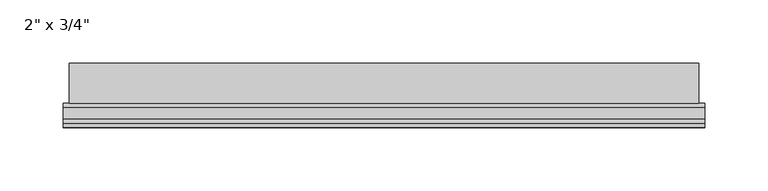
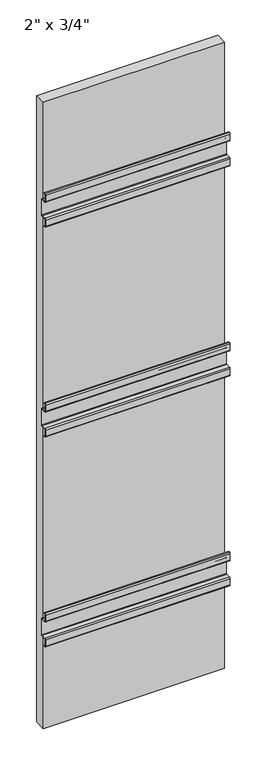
"""IFC4 building model written with IfcOpenShell, lengths in millimetres: plate geometry."""

from ifc_helpers import new_model, si_unit, point, frame, frame_2d, origin, place, context, project, spatial, polyline, circle_curve, trimmed, segment, composite_curve, outline, extrude, source, transform, mapped, element, save


def plate_c696ad90(model_context):
    return source(origin(), model_context, "Body", "SweptSolid", [
        extrude(outline(composite_curve([segment(trimmed(circle_curve(frame_2d((3.175, 1476.375)), 3.175), [point((3.175, 1473.2))], [point((0.0, 1476.375))], False, "CARTESIAN"), True, "CONTINUOUS"), segment(polyline([(0.0, 1476.375), (0.0, 1494.6376)]), True, "CONTINUOUS"), segment(trimmed(circle_curve(frame_2d((3.175, 1494.6376)), 3.175), [point((0.0, 1494.6376))], [point((3.175, 1497.8126))], False, "CARTESIAN"), True, "CONTINUOUS"), segment(polyline([(3.175, 1497.8126), (15.875, 1497.8126)]), True, "CONTINUOUS"), segment(trimmed(circle_curve(frame_2d((15.875, 1499.4001)), 1.5875), [point((15.875, 1497.8126))], [point((17.4625, 1499.4001))], True, "CARTESIAN"), True, "CONTINUOUS"), segment(polyline([(17.4625, 1499.4001), (17.4625, 1543.8501)]), True, "CONTINUOUS"), segment(trimmed(circle_curve(frame_2d((15.875, 1543.8501)), 1.5875), [point((17.4625, 1543.8501))], [point((15.875, 1545.4376))], True, "CARTESIAN"), True, "CONTINUOUS"), segment(polyline([(15.875, 1545.4376), (3.175, 1545.4376)]), True, "CONTINUOUS"), segment(trimmed(circle_curve(frame_2d((3.175, 1548.6126)), 3.175), [point((3.175, 1545.4376))], [point((0.0, 1548.6126))], False, "CARTESIAN"), True, "CONTINUOUS"), segment(polyline([(0.0, 1548.6126), (0.0, 1566.8752)]), True, "CONTINUOUS"), segment(trimmed(circle_curve(frame_2d((3.175, 1566.8752)), 3.175), [point((0.0, 1566.8752))], [point((3.175, 1570.0502))], False, "CARTESIAN"), True, "CONTINUOUS"), segment(polyline([(3.175, 1570.0502), (6.35, 1570.0502), (6.35, 1568.4627), (3.175, 1568.4627)]), True, "CONTINUOUS"), segment(trimmed(circle_curve(frame_2d((3.175, 1566.8752)), 1.5875), [point((3.175, 1568.4627))], [point((1.5875, 1566.8752))], True, "CARTESIAN"), True, "CONTINUOUS"), segment(polyline([(1.5875, 1566.8752), (1.5875, 1548.6126)]), True, "CONTINUOUS"), segment(trimmed(circle_curve(frame_2d((3.175, 1548.6126)), 1.5875), [point((1.5875, 1548.6126))], [point((3.175, 1547.0251))], True, "CARTESIAN"), True, "CONTINUOUS"), segment(polyline([(3.175, 1547.0251), (15.875, 1547.0251)]), True, "CONTINUOUS"), segment(trimmed(circle_curve(frame_2d((15.875, 1543.8501)), 3.175), [point((15.875, 1547.0251))], [point((19.05, 1543.8501))], False, "CARTESIAN"), True, "CONTINUOUS"), segment(polyline([(19.05, 1543.8501), (19.05, 1499.4001)]), True, "CONTINUOUS"), segment(trimmed(circle_curve(frame_2d((15.875, 1499.4001)), 3.175), [point((19.05, 1499.4001))], [point((15.875, 1496.2251))], False, "CARTESIAN"), True, "CONTINUOUS"), segment(polyline([(15.875, 1496.2251), (3.175, 1496.2251)]), True, "CONTINUOUS"), segment(trimmed(circle_curve(frame_2d((3.175, 1494.6376)), 1.5875), [point((3.175, 1496.2251))], [point((1.5875, 1494.6376))], True, "CARTESIAN"), True, "CONTINUOUS"), segment(polyline([(1.5875, 1494.6376), (1.5875, 1476.375)]), True, "CONTINUOUS"), segment(trimmed(circle_curve(frame_2d((3.175, 1476.375)), 1.5875), [point((1.5875, 1476.375))], [point((3.175, 1474.7875))], True, "CARTESIAN"), True, "CONTINUOUS"), segment(polyline([(3.175, 1474.7875), (6.35, 1474.7875), (6.35, 1473.2), (3.175, 1473.2)]), True, "CONTINUOUS")], self_intersect=False)), frame((-253.9999998, 0.0, 0.0), z_axis=(1.0, 0.0, 0.0), x_axis=(0.0, 1.0, 0.0)), (0.0, 0.0, 1.0), 507.9999997),
        extrude(outline(composite_curve([segment(trimmed(circle_curve(frame_2d((3.175, 866.775)), 3.175), [point((3.175, 863.6))], [point((0.0, 866.775))], False, "CARTESIAN"), True, "CONTINUOUS"), segment(polyline([(0.0, 866.775), (0.0, 885.0376)]), True, "CONTINUOUS"), segment(trimmed(circle_curve(frame_2d((3.175, 885.0376)), 3.175), [point((0.0, 885.0376))], [point((3.175, 888.2126))], False, "CARTESIAN"), True, "CONTINUOUS"), segment(polyline([(3.175, 888.2126), (15.875, 888.2126)]), True, "CONTINUOUS"), segment(trimmed(circle_curve(frame_2d((15.875, 889.8001)), 1.5875), [point((15.875, 888.2126))], [point((17.4625, 889.8001))], True, "CARTESIAN"), True, "CONTINUOUS"), segment(polyline([(17.4625, 889.8001), (17.4625, 934.2501)]), True, "CONTINUOUS"), segment(trimmed(circle_curve(frame_2d((15.875, 934.2501)), 1.5875), [point((17.4625, 934.2501))], [point((15.875, 935.8376))], True, "CARTESIAN"), True, "CONTINUOUS"), segment(polyline([(15.875, 935.8376), (3.175, 935.8376)]), True, "CONTINUOUS"), segment(trimmed(circle_curve(frame_2d((3.175, 939.0126)), 3.175), [point((3.175, 935.8376))], [point((0.0, 939.0126))], False, "CARTESIAN"), True, "CONTINUOUS"), segment(polyline([(0.0, 939.0126), (0.0, 957.2752)]), True, "CONTINUOUS"), segment(trimmed(circle_curve(frame_2d((3.175, 957.2752)), 3.175), [point((0.0, 957.2752))], [point((3.175, 960.4502))], False, "CARTESIAN"), True, "CONTINUOUS"), segment(polyline([(3.175, 960.4502), (6.35, 960.4502), (6.35, 958.8627), (3.175, 958.8627)]), True, "CONTINUOUS"), segment(trimmed(circle_curve(frame_2d((3.175, 957.2752)), 1.5875), [point((3.175, 958.8627))], [point((1.5875, 957.2752))], True, "CARTESIAN"), True, "CONTINUOUS"), segment(polyline([(1.5875, 957.2752), (1.5875, 939.0126)]), True, "CONTINUOUS"), segment(trimmed(circle_curve(frame_2d((3.175, 939.0126)), 1.5875), [point((1.5875, 939.0126))], [point((3.175, 937.4251))], True, "CARTESIAN"), True, "CONTINUOUS"), segment(polyline([(3.175, 937.4251), (15.875, 937.4251)]), True, "CONTINUOUS"), segment(trimmed(circle_curve(frame_2d((15.875, 934.2501)), 3.175), [point((15.875, 937.4251))], [point((19.05, 934.2501))], False, "CARTESIAN"), True, "CONTINUOUS"), segment(polyline([(19.05, 934.2501), (19.05, 889.8001)]), True, "CONTINUOUS"), segment(trimmed(circle_curve(frame_2d((15.875, 889.8001)), 3.175), [point((19.05, 889.8001))], [point((15.875, 886.6251))], False, "CARTESIAN"), True, "CONTINUOUS"), segment(polyline([(15.875, 886.6251), (3.175, 886.6251)]), True, "CONTINUOUS"), segment(trimmed(circle_curve(frame_2d((3.175, 885.0376)), 1.5875), [point((3.175, 886.6251))], [point((1.5875, 885.0376))], True, "CARTESIAN"), True, "CONTINUOUS"), segment(polyline([(1.5875, 885.0376), (1.5875, 866.775)]), True, "CONTINUOUS"), segment(trimmed(circle_curve(frame_2d((3.175, 866.775)), 1.5875), [point((1.5875, 866.775))], [point((3.175, 865.1875))], True, "CARTESIAN"), True, "CONTINUOUS"), segment(polyline([(3.175, 865.1875), (6.35, 865.1875), (6.35, 863.6), (3.175, 863.6)]), True, "CONTINUOUS")], self_intersect=False)), frame((-253.9999998, 0.0, 0.0), z_axis=(1.0, 0.0, 0.0), x_axis=(0.0, 1.0, 0.0)), (0.0, 0.0, 1.0), 507.9999997),
        extrude(outline(composite_curve([segment(trimmed(circle_curve(frame_2d((3.175, 257.175)), 3.175), [point((3.175, 254.0))], [point((0.0, 257.175))], False, "CARTESIAN"), True, "CONTINUOUS"), segment(polyline([(0.0, 257.175), (0.0, 275.4376)]), True, "CONTINUOUS"), segment(trimmed(circle_curve(frame_2d((3.175, 275.4376)), 3.175), [point((0.0, 275.4376))], [point((3.175, 278.6126))], False, "CARTESIAN"), True, "CONTINUOUS"), segment(polyline([(3.175, 278.6126), (15.875, 278.6126)]), True, "CONTINUOUS"), segment(trimmed(circle_curve(frame_2d((15.875, 280.2001)), 1.5875), [point((15.875, 278.6126))], [point((17.4625, 280.2001))], True, "CARTESIAN"), True, "CONTINUOUS"), segment(polyline([(17.4625, 280.2001), (17.4625, 324.6501)]), True, "CONTINUOUS"), segment(trimmed(circle_curve(frame_2d((15.875, 324.6501)), 1.5875), [point((17.4625, 324.6501))], [point((15.875, 326.2376))], True, "CARTESIAN"), True, "CONTINUOUS"), segment(polyline([(15.875, 326.2376), (3.175, 326.2376)]), True, "CONTINUOUS"), segment(trimmed(circle_curve(frame_2d((3.175, 329.4126)), 3.175), [point((3.175, 326.2376))], [point((0.0, 329.4126))], False, "CARTESIAN"), True, "CONTINUOUS"), segment(polyline([(0.0, 329.4126), (0.0, 347.6752)]), True, "CONTINUOUS"), segment(trimmed(circle_curve(frame_2d((3.175, 347.6752)), 3.175), [point((0.0, 347.6752))], [point((3.175, 350.8502))], False, "CARTESIAN"), True, "CONTINUOUS"), segment(polyline([(3.175, 350.8502), (6.35, 350.8502), (6.35, 349.2627), (3.175, 349.2627)]), True, "CONTINUOUS"), segment(trimmed(circle_curve(frame_2d((3.175, 347.6752)), 1.5875), [point((3.175, 349.2627))], [point((1.5875, 347.6752))], True, "CARTESIAN"), True, "CONTINUOUS"), segment(polyline([(1.5875, 347.6752), (1.5875, 329.4126)]), True, "CONTINUOUS"), segment(trimmed(circle_curve(frame_2d((3.175, 329.4126)), 1.5875), [point((1.5875, 329.4126))], [point((3.175, 327.8251))], True, "CARTESIAN"), True, "CONTINUOUS"), segment(polyline([(3.175, 327.8251), (15.875, 327.8251)]), True, "CONTINUOUS"), segment(trimmed(circle_curve(frame_2d((15.875, 324.6501)), 3.175), [point((15.875, 327.8251))], [point((19.05, 324.6501))], False, "CARTESIAN"), True, "CONTINUOUS"), segment(polyline([(19.05, 324.6501), (19.05, 280.2001)]), True, "CONTINUOUS"), segment(trimmed(circle_curve(frame_2d((15.875, 280.2001)), 3.175), [point((19.05, 280.2001))], [point((15.875, 277.0251))], False, "CARTESIAN"), True, "CONTINUOUS"), segment(polyline([(15.875, 277.0251), (3.175, 277.0251)]), True, "CONTINUOUS"), segment(trimmed(circle_curve(frame_2d((3.175, 275.4376)), 1.5875), [point((3.175, 277.0251))], [point((1.5875, 275.4376))], True, "CARTESIAN"), True, "CONTINUOUS"), segment(polyline([(1.5875, 275.4376), (1.5875, 257.175)]), True, "CONTINUOUS"), segment(trimmed(circle_curve(frame_2d((3.175, 257.175)), 1.5875), [point((1.5875, 257.175))], [point((3.175, 255.5875))], True, "CARTESIAN"), True, "CONTINUOUS"), segment(polyline([(3.175, 255.5875), (6.35, 255.5875), (6.35, 254.0), (3.175, 254.0)]), True, "CONTINUOUS")], self_intersect=False)), frame((-253.9999998, 0.0, 0.0), z_axis=(1.0, 0.0, 0.0), x_axis=(0.0, 1.0, 0.0)), (0.0, 0.0, 1.0), 507.9999997),
        extrude(outline(polyline([(249.2374998, 19.05), (-249.2374998, 19.05), (-249.2374998, 50.8), (249.2374998, 50.8), (249.2374998, 19.05)])), frame((0.0, 0.0, 4.7625), z_axis=(0.0, 0.0, 1.0), x_axis=(1.0, 0.0, 0.0)), (0.0, 0.0, 1.0), 1819.275),
    ])


if __name__ == "__main__":
    model = new_model("IFC4")
    model_context = context("Model", 3, world=origin())
    ifc_project = project(units=[si_unit("LENGTHUNIT", "METRE", prefix="MILLI")], contexts=[model_context])
    site = spatial("IfcSite", under=ifc_project)
    building = spatial("IfcBuilding", under=site)
    placement = place(None, origin())
    plate_shape = plate_c696ad90(model_context)
    element("IfcPlate", 1, ObjectType="KWS_Generic-Panel_w_PanelRail-H : 2\" x 3/4\"", at=placement, inside=building, context=model_context, shape_type="MappedRepresentation", body=[
        mapped(plate_shape, transform((0.0, 0.0, 0.0), x_axis=(1.0, 0.0, 0.0), y_axis=(0.0, 1.0, 0.0), z_axis=(0.0, 0.0, 1.0))),
    ])
    save(model, "model.ifc")
